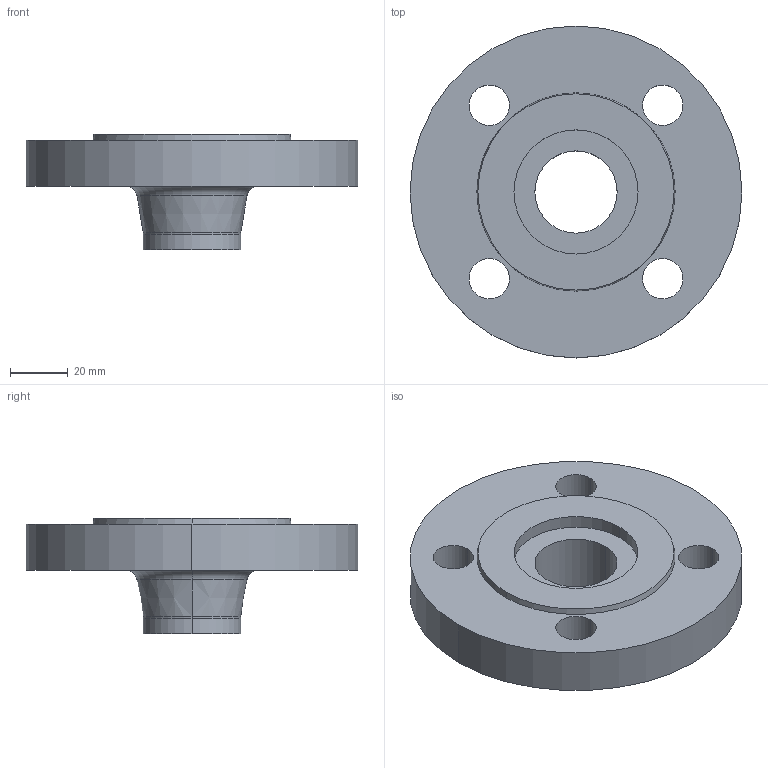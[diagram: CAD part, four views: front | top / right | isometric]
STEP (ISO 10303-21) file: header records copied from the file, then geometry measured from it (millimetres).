
FILE_DESCRIPTION (( 'STEP AP214' ), '1' );
FILE_NAME ('PN40 DN25 Type 11 - Type G Face.STEP', '2018-12-29T20:30:45', ( '' ), ( '' ), 'SwSTEP 2.0', 'SolidWorks 2019', '' );
FILE_SCHEMA (( 'AUTOMOTIVE_DESIGN' ));
Length unit declared in the file: millimetre
Products named in the file (1): PN40 DN25 Type 11 - Type G Face
Bounding box: 115 x 115 x 40 mm (x, y, z)
Volume: 156938.1 mm3; surface area: 33053.2 mm2
Topology: 1 solids, 1 shells, 29 faces, 66 edges, 42 vertices
Faces by surface type: cylinder 16, plane 5, torus 4, cone 4
Entity records: 892 total; most frequent: DIRECTION 172, CARTESIAN_POINT 138, ORIENTED_EDGE 132, AXIS2_PLACEMENT_3D 76, EDGE_CURVE 66, CIRCLE 46, EDGE_LOOP 42, VERTEX_POINT 42
